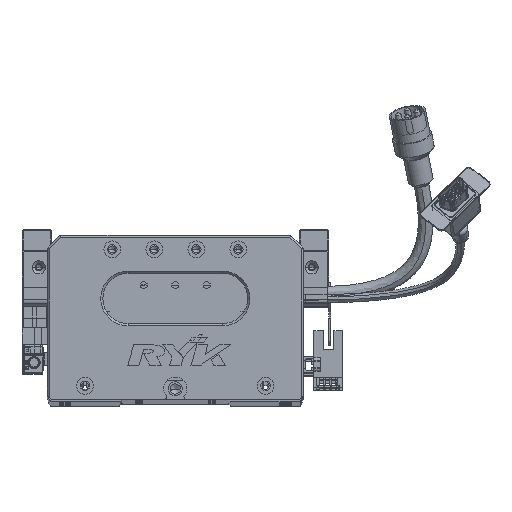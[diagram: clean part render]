
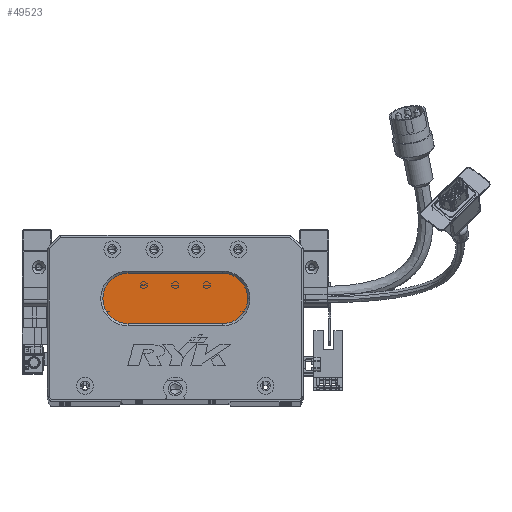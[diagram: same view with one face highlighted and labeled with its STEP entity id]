
A CAD part, top view. The second image highlights one B-rep face of the part: STEP entity #49523.
In plain terms, the highlighted planar face has unit normal (0, 0, 1) as drawn and (0, 0, -1) by its records, which use the part's own axes.
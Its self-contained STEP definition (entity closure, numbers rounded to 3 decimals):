
#288 = VERTEX_POINT ( 'NONE', #52979 ) ;
#1993 = AXIS2_PLACEMENT_3D ( 'NONE', #55852, #63964, #91415 ) ;
#2962 = CARTESIAN_POINT ( 'NONE',  ( 38.5, 48., 13. ) ) ;
#3969 = LINE ( 'NONE', #54964, #88617 ) ;
#3993 = DIRECTION ( 'NONE',  ( -1., 0., 0. ) ) ;
#6624 = CARTESIAN_POINT ( 'NONE',  ( 38.5, 60., 13. ) ) ;
#8304 = CIRCLE ( 'NONE', #85028, 12. ) ;
#10043 = CARTESIAN_POINT ( 'NONE',  ( 83.5, 60., 13. ) ) ;
#15689 = EDGE_CURVE ( 'NONE', #58148, #51791, #49447, .T. ) ;
#16151 = VERTEX_POINT ( 'NONE', #10043 ) ;
#17633 = DIRECTION ( 'NONE',  ( -1., 0., 0. ) ) ;
#23872 = VERTEX_POINT ( 'NONE', #68758 ) ;
#28175 = VECTOR ( 'NONE', #80487, 1000. ) ;
#29342 = AXIS2_PLACEMENT_3D ( 'NONE', #2962, #81795, #40482 ) ;
#29943 = CIRCLE ( 'NONE', #29342, 12. ) ;
#30903 = CARTESIAN_POINT ( 'NONE',  ( 83.5, 48., 13. ) ) ;
#32695 = DIRECTION ( 'NONE',  ( 0., 0., -1. ) ) ;
#33334 = EDGE_CURVE ( 'NONE', #23872, #288, #3969, .T. ) ;
#33823 = LINE ( 'NONE', #87379, #28175 ) ;
#36875 = EDGE_CURVE ( 'NONE', #51791, #16151, #33823, .T. ) ;
#37840 = EDGE_LOOP ( 'NONE', ( #39842, #71319, #85219, #71152, #72429 ) ) ;
#39842 = ORIENTED_EDGE ( 'NONE', *, *, #68434, .T. ) ;
#39951 = CARTESIAN_POINT ( 'NONE',  ( 83.5, 48., 13. ) ) ;
#40482 = DIRECTION ( 'NONE',  ( -1., 0., 0. ) ) ;
#40961 = AXIS2_PLACEMENT_3D ( 'NONE', #39951, #32695, #3993 ) ;
#45422 = DIRECTION ( 'NONE',  ( 0., 0., -1. ) ) ;
#45763 = CARTESIAN_POINT ( 'NONE',  ( 26.5, 48., 13. ) ) ;
#47997 = DIRECTION ( 'NONE',  ( -1., 0., 0. ) ) ;
#49447 = CIRCLE ( 'NONE', #1993, 12. ) ;
#49523 = ADVANCED_FACE ( 'NONE', ( #79558 ), #75897, .T. ) ;
#51791 = VERTEX_POINT ( 'NONE', #6624 ) ;
#52979 = CARTESIAN_POINT ( 'NONE',  ( 38.5, 36., 13. ) ) ;
#54964 = CARTESIAN_POINT ( 'NONE',  ( 83.5, 36., 13. ) ) ;
#55852 = CARTESIAN_POINT ( 'NONE',  ( 38.5, 48., 13. ) ) ;
#57619 = EDGE_CURVE ( 'NONE', #288, #58148, #29943, .T. ) ;
#58148 = VERTEX_POINT ( 'NONE', #45763 ) ;
#63964 = DIRECTION ( 'NONE',  ( 0., 0., -1. ) ) ;
#68434 = EDGE_CURVE ( 'NONE', #16151, #23872, #8304, .T. ) ;
#68758 = CARTESIAN_POINT ( 'NONE',  ( 83.5, 36., 13. ) ) ;
#71152 = ORIENTED_EDGE ( 'NONE', *, *, #15689, .T. ) ;
#71319 = ORIENTED_EDGE ( 'NONE', *, *, #33334, .T. ) ;
#72429 = ORIENTED_EDGE ( 'NONE', *, *, #36875, .T. ) ;
#75897 = PLANE ( 'NONE',  #40961 ) ;
#79558 = FACE_OUTER_BOUND ( 'NONE', #37840, .T. ) ;
#80487 = DIRECTION ( 'NONE',  ( 1., 0., 0. ) ) ;
#81795 = DIRECTION ( 'NONE',  ( 0., 0., -1. ) ) ;
#85028 = AXIS2_PLACEMENT_3D ( 'NONE', #30903, #45422, #17633 ) ;
#85219 = ORIENTED_EDGE ( 'NONE', *, *, #57619, .T. ) ;
#87379 = CARTESIAN_POINT ( 'NONE',  ( 83.5, 60., 13. ) ) ;
#88617 = VECTOR ( 'NONE', #47997, 1000. ) ;
#91415 = DIRECTION ( 'NONE',  ( -1., 0., 0. ) ) ;
